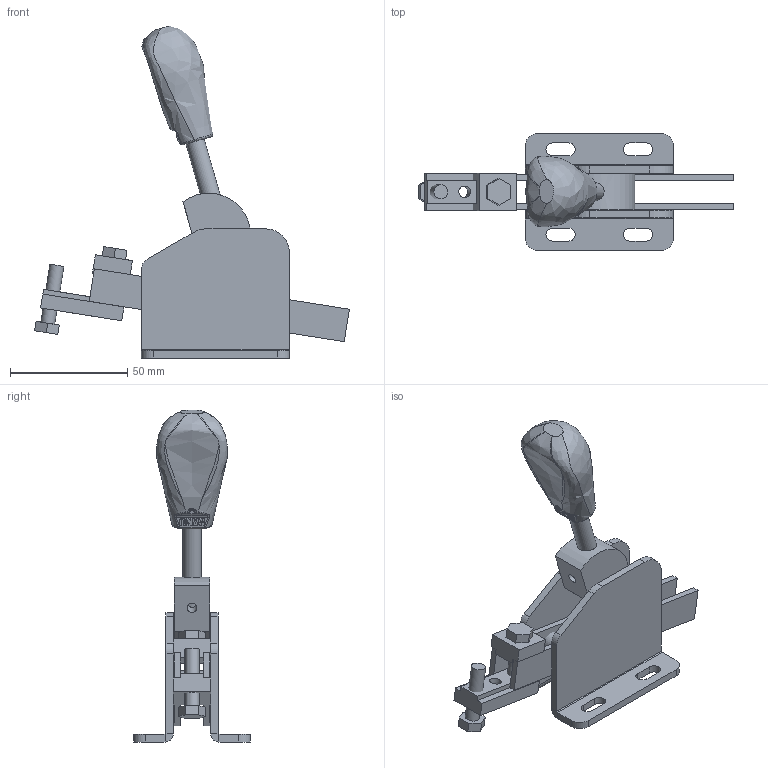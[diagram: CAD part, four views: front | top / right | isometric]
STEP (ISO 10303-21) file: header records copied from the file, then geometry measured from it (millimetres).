
FILE_DESCRIPTION(/* description */ (''),/* implementation_level */ '2;1');
FILE_NAME(/* name */ '\\192.168.1.150\pc03\Inventor\デュアルメカニズムクランプ最終\2017.10月　最新型\ＰＵＤ-22ＳＴ\PUD-25ST-UNCLAMP.stp',/* time_stamp */ '2024-05-16T08:58:57+09:00',/* author */ ('Backup'),/* organization */ (''),/* preprocessor_version */ 'ST-DEVELOPER v17',/* originating_system */ 'Autodesk Inventor 2019',/* authorisation */ '');
FILE_SCHEMA (('AUTOMOTIVE_DESIGN { 1 0 10303 214 3 1 1 }'));
Length unit declared in the file: millimetre
Products named in the file (11): PUD-25ST-UNCLAMP; BASE-PART1_____; BASE-PART2_____; SUD-CAM36__; SLIDE-ARM_____; SHAFT; GRIP-FIX; PART-1; PART-2; NEZI-2; RIBET-3
Assembly tree (12 placements, depth 2):
  PUD-25ST-UNCLAMP
    BASE-PART1_____
    BASE-PART2_____
    SUD-CAM36__
    SLIDE-ARM_____  x2
    SHAFT
    GRIP-FIX
    PART-1
    PART-2
    NEZI-2  x2
    RIBET-3
Bounding box: 134.08 x 49.8 x 141.43 mm (x, y, z)
Volume: 69824.4 mm3; surface area: 40444 mm2
Topology: 12 solids, 12 shells, 253 faces, 649 edges, 426 vertices
Faces by surface type: plane 151, cylinder 73, bspline 22, sphere 4, torus 2, cone 1
Full cylindrical faces by diameter (mm): 1.306 x1, 4.2 x1, 5 x5, 6 x3, 6.5 x1, 8 x2, 9 x1
Entity records: 13329 total; most frequent: CARTESIAN_POINT 7154, ORIENTED_EDGE 1214, DIRECTION 1192, EDGE_CURVE 607, AXIS2_PLACEMENT_3D 408, VERTEX_POINT 398, LINE 376, VECTOR 376
